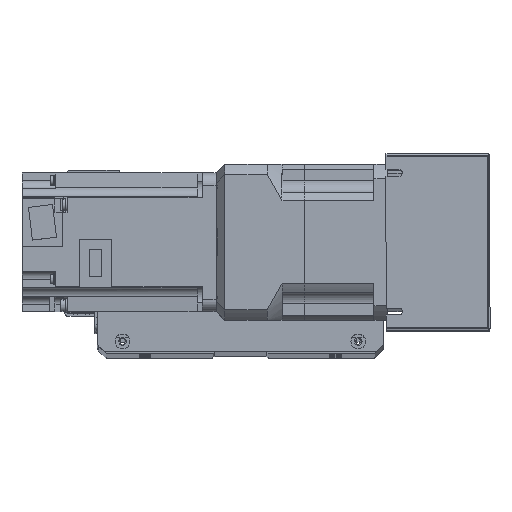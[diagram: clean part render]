
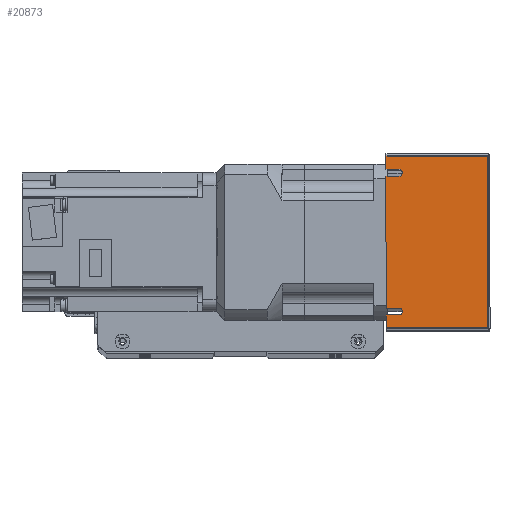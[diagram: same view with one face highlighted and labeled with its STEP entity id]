
A CAD part, top view. The second image highlights one B-rep face of the part: STEP entity #20873.
In plain terms, the highlighted planar face has unit normal (0, 0, 1) as drawn and (-1, 0, 0) by its records, which use the part's own axes.
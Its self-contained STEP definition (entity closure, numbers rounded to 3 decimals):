
#556=PLANE('',#22729);
#1644=LINE('',#33142,#3304);
#1650=LINE('',#33156,#3310);
#1662=LINE('',#33183,#3322);
#1672=LINE('',#33205,#3332);
#1680=LINE('',#33224,#3340);
#1681=LINE('',#33227,#3341);
#1682=LINE('',#33229,#3342);
#1683=LINE('',#33231,#3343);
#1684=LINE('',#33233,#3344);
#1685=LINE('',#33234,#3345);
#3304=VECTOR('',#26967,10.);
#3310=VECTOR('',#26977,10.);
#3322=VECTOR('',#26995,10.);
#3332=VECTOR('',#27009,10.);
#3340=VECTOR('',#27031,10.);
#3341=VECTOR('',#27034,10.);
#3342=VECTOR('',#27035,10.);
#3343=VECTOR('',#27036,10.);
#3344=VECTOR('',#27037,10.);
#3345=VECTOR('',#27038,10.);
#5366=FACE_OUTER_BOUND('',#6834,.T.);
#6834=EDGE_LOOP('',(#16246,#16247,#16248,#16249,#16250,#16251,#16252,#16253,
#16254,#16255,#16256,#16257));
#8280=CIRCLE('',#22725,2.);
#8283=CIRCLE('',#22730,2.);
#9725=VERTEX_POINT('',#33139);
#9726=VERTEX_POINT('',#33141);
#9731=VERTEX_POINT('',#33154);
#9732=VERTEX_POINT('',#33155);
#9743=VERTEX_POINT('',#33181);
#9744=VERTEX_POINT('',#33182);
#9753=VERTEX_POINT('',#33202);
#9754=VERTEX_POINT('',#33204);
#9759=VERTEX_POINT('',#33226);
#9760=VERTEX_POINT('',#33228);
#9761=VERTEX_POINT('',#33230);
#9762=VERTEX_POINT('',#33232);
#12085=EDGE_CURVE('',#9725,#9726,#1644,.T.);
#12091=EDGE_CURVE('',#9731,#9732,#1650,.T.);
#12103=EDGE_CURVE('',#9743,#9744,#1662,.T.);
#12113=EDGE_CURVE('',#9753,#9754,#1672,.T.);
#12116=EDGE_CURVE('',#9732,#9725,#8280,.T.);
#12125=EDGE_CURVE('',#9731,#9754,#1680,.T.);
#12126=EDGE_CURVE('',#9744,#9753,#8283,.T.);
#12127=EDGE_CURVE('',#9743,#9759,#1681,.T.);
#12128=EDGE_CURVE('',#9759,#9760,#1682,.T.);
#12129=EDGE_CURVE('',#9760,#9761,#1683,.T.);
#12130=EDGE_CURVE('',#9761,#9762,#1684,.T.);
#12131=EDGE_CURVE('',#9762,#9726,#1685,.T.);
#16246=ORIENTED_EDGE('',*,*,#12085,.F.);
#16247=ORIENTED_EDGE('',*,*,#12116,.F.);
#16248=ORIENTED_EDGE('',*,*,#12091,.F.);
#16249=ORIENTED_EDGE('',*,*,#12125,.T.);
#16250=ORIENTED_EDGE('',*,*,#12113,.F.);
#16251=ORIENTED_EDGE('',*,*,#12126,.F.);
#16252=ORIENTED_EDGE('',*,*,#12103,.F.);
#16253=ORIENTED_EDGE('',*,*,#12127,.T.);
#16254=ORIENTED_EDGE('',*,*,#12128,.T.);
#16255=ORIENTED_EDGE('',*,*,#12129,.T.);
#16256=ORIENTED_EDGE('',*,*,#12130,.T.);
#16257=ORIENTED_EDGE('',*,*,#12131,.T.);
#20873=ADVANCED_FACE('',(#5366),#556,.F.);
#22725=AXIS2_PLACEMENT_3D('',#33209,#27015,#27016);
#22729=AXIS2_PLACEMENT_3D('',#33223,#27029,#27030);
#22730=AXIS2_PLACEMENT_3D('',#33225,#27032,#27033);
#26967=DIRECTION('',(0.,0.,-1.));
#26977=DIRECTION('',(0.,0.,1.));
#26995=DIRECTION('',(0.,0.,1.));
#27009=DIRECTION('',(0.,0.,-1.));
#27015=DIRECTION('center_axis',(-1.,0.,0.));
#27016=DIRECTION('ref_axis',(0.,0.,1.));
#27029=DIRECTION('center_axis',(1.,0.,0.));
#27030=DIRECTION('ref_axis',(0.,-1.,0.));
#27031=DIRECTION('',(0.,-1.,0.));
#27032=DIRECTION('center_axis',(-1.,0.,0.));
#27033=DIRECTION('ref_axis',(0.,0.,1.));
#27034=DIRECTION('',(0.,-1.,0.));
#27035=DIRECTION('',(0.,0.,1.));
#27036=DIRECTION('',(0.,1.,0.));
#27037=DIRECTION('',(0.,0.,-1.));
#27038=DIRECTION('',(0.,-1.,0.));
#33139=CARTESIAN_POINT('',(-120.5,42.,-22.5));
#33141=CARTESIAN_POINT('',(-120.5,42.,-30.));
#33142=CARTESIAN_POINT('',(-120.5,42.,-16.304));
#33154=CARTESIAN_POINT('',(-120.5,38.,-30.));
#33155=CARTESIAN_POINT('',(-120.5,38.,-22.5));
#33156=CARTESIAN_POINT('',(-120.5,38.,-11.25));
#33181=CARTESIAN_POINT('',(-120.5,-42.,-30.));
#33182=CARTESIAN_POINT('',(-120.5,-42.,-22.5));
#33183=CARTESIAN_POINT('',(-120.5,-42.,-11.25));
#33202=CARTESIAN_POINT('',(-120.5,-38.,-22.5));
#33204=CARTESIAN_POINT('',(-120.5,-38.,-30.));
#33205=CARTESIAN_POINT('',(-120.5,-38.,-16.169));
#33209=CARTESIAN_POINT('Origin',(-120.5,40.,-22.5));
#33223=CARTESIAN_POINT('Origin',(-120.5,51.,0.));
#33224=CARTESIAN_POINT('',(-120.5,-51.,-30.));
#33225=CARTESIAN_POINT('Origin',(-120.5,-40.,-22.5));
#33226=CARTESIAN_POINT('',(-120.5,-50.,-30.));
#33227=CARTESIAN_POINT('',(-120.5,-51.,-30.));
#33228=CARTESIAN_POINT('',(-120.5,-50.,29.));
#33229=CARTESIAN_POINT('',(-120.5,-50.,0.));
#33230=CARTESIAN_POINT('',(-120.5,50.,29.));
#33231=CARTESIAN_POINT('',(-120.5,25.5,29.));
#33232=CARTESIAN_POINT('',(-120.5,50.,-30.));
#33233=CARTESIAN_POINT('',(-120.5,50.,0.));
#33234=CARTESIAN_POINT('',(-120.5,-51.,-30.));
